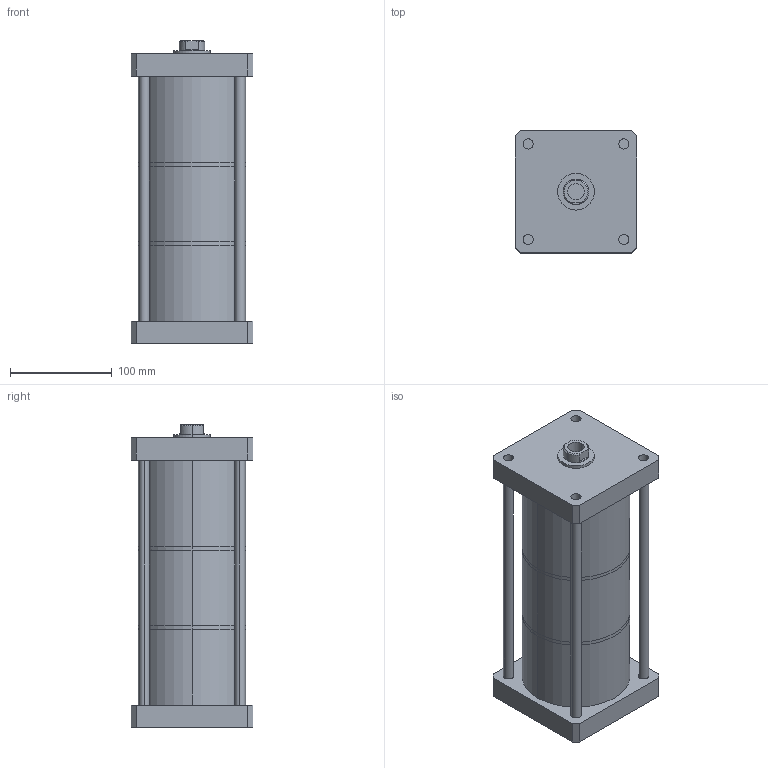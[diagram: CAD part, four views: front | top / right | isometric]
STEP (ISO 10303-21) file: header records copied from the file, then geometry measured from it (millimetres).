
FILE_DESCRIPTION (( 'STEP AP203' ), '1' );
FILE_NAME ('MHK-100-50-F-3.STEP', '2016-03-31T03:28:47', ( 'WIN' ), ( '' ), 'SwSTEP 2.0', 'SolidWorks 2014', '' );
FILE_SCHEMA (( 'CONFIG_CONTROL_DESIGN' ));
Length unit declared in the file: millimetre
Products named in the file (1): MHK-100-50-F-3
Bounding box: 120 x 120 x 298 mm (x, y, z)
Volume: 3473498.3 mm3; surface area: 298766.2 mm2
Topology: 6 solids, 6 shells, 148 faces, 334 edges, 219 vertices
Faces by surface type: plane 81, cylinder 56, cone 11
Entity records: 4228 total; most frequent: DIRECTION 755, CARTESIAN_POINT 710, ORIENTED_EDGE 660, EDGE_CURVE 330, AXIS2_PLACEMENT_3D 280, VERTEX_POINT 219, VECTOR 195, LINE 195
